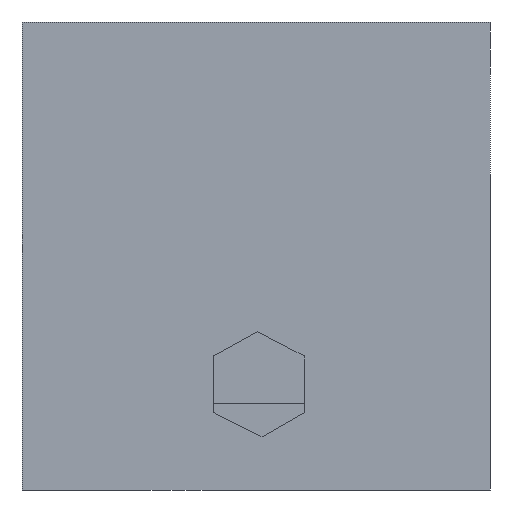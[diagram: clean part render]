
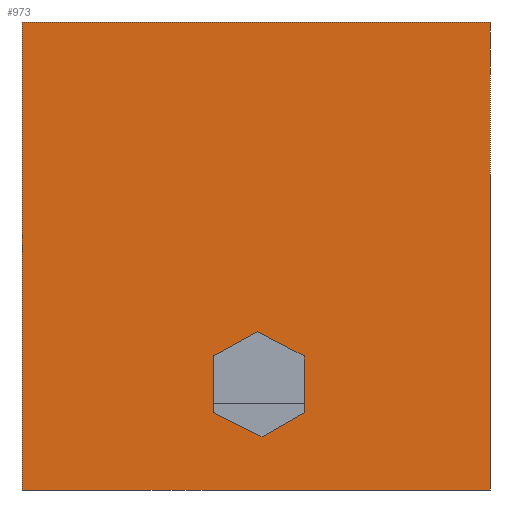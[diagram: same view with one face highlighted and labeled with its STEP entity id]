
A CAD part, front view. The second image highlights one B-rep face of the part: STEP entity #973.
In plain terms, the highlighted planar face has unit normal (0, -1, 0).
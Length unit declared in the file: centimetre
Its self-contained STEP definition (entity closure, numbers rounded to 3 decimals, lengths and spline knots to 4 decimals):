
#39 = EDGE_CURVE ( 'NONE', #222, #926, #1240, .T. ) ;
#52 = CARTESIAN_POINT ( 'NONE',  ( 0., 0., 1000. ) ) ;
#54 = ORIENTED_EDGE ( 'NONE', *, *, #39, .F. ) ;
#55 = VECTOR ( 'NONE', #280, 100. ) ;
#84 = CARTESIAN_POINT ( 'NONE',  ( 408.2537, 0., 286.3788 ) ) ;
#91 = EDGE_CURVE ( 'NONE', #437, #693, #1509, .T. ) ;
#97 = AXIS2_PLACEMENT_3D ( 'NONE', #123, #233, #823 ) ;
#107 = ORIENTED_EDGE ( 'NONE', *, *, #644, .F. ) ;
#123 = CARTESIAN_POINT ( 'NONE',  ( 0., 0., 1000. ) ) ;
#142 = ORIENTED_EDGE ( 'NONE', *, *, #91, .F. ) ;
#171 = CARTESIAN_POINT ( 'NONE',  ( 512.8261, 0., 113.7043 ) ) ;
#181 = LINE ( 'NONE', #412, #773 ) ;
#204 = CARTESIAN_POINT ( 'NONE',  ( 0., 0., 1000. ) ) ;
#218 = LINE ( 'NONE', #204, #303 ) ;
#222 = VERTEX_POINT ( 'NONE', #598 ) ;
#233 = DIRECTION ( 'NONE',  ( 0., 1., 0. ) ) ;
#248 = VECTOR ( 'NONE', #871, 100. ) ;
#271 = CARTESIAN_POINT ( 'NONE',  ( 0., 0., 0. ) ) ;
#280 = DIRECTION ( 'NONE',  ( 1., 0., 0. ) ) ;
#303 = VECTOR ( 'NONE', #436, 100. ) ;
#315 = LINE ( 'NONE', #84, #1192 ) ;
#324 = VECTOR ( 'NONE', #941, 100. ) ;
#327 = EDGE_CURVE ( 'NONE', #1081, #521, #218, .T. ) ;
#403 = LINE ( 'NONE', #52, #652 ) ;
#412 = CARTESIAN_POINT ( 'NONE',  ( 408.2537, 0., 165.629 ) ) ;
#420 = DIRECTION ( 'NONE',  ( 0.896, 0., -0.445 ) ) ;
#436 = DIRECTION ( 'NONE',  ( 0., 0., -1. ) ) ;
#437 = VERTEX_POINT ( 'NONE', #1060 ) ;
#460 = LINE ( 'NONE', #1281, #1002 ) ;
#494 = CARTESIAN_POINT ( 'NONE',  ( 0., 0., 1000. ) ) ;
#521 = VERTEX_POINT ( 'NONE', #849 ) ;
#534 = LINE ( 'NONE', #1468, #1489 ) ;
#542 = EDGE_LOOP ( 'NONE', ( #1248, #142, #1222, #1251, #789, #54 ) ) ;
#543 = DIRECTION ( 'NONE',  ( 0., 0., -1. ) ) ;
#555 = ORIENTED_EDGE ( 'NONE', *, *, #1382, .F. ) ;
#590 = CARTESIAN_POINT ( 'NONE',  ( 1000., 0., 1000. ) ) ;
#598 = CARTESIAN_POINT ( 'NONE',  ( 503.0686, 0., 338.3035 ) ) ;
#631 = LINE ( 'NONE', #1456, #248 ) ;
#643 = VERTEX_POINT ( 'NONE', #171 ) ;
#644 = EDGE_CURVE ( 'NONE', #909, #1379, #631, .T. ) ;
#652 = VECTOR ( 'NONE', #968, 100. ) ;
#657 = CARTESIAN_POINT ( 'NONE',  ( 602.7623, 0., 286.3788 ) ) ;
#678 = FACE_OUTER_BOUND ( 'NONE', #1257, .T. ) ;
#693 = VERTEX_POINT ( 'NONE', #657 ) ;
#713 = FACE_BOUND ( 'NONE', #542, .T. ) ;
#736 = EDGE_CURVE ( 'NONE', #926, #861, #315, .T. ) ;
#773 = VECTOR ( 'NONE', #420, 100. ) ;
#789 = ORIENTED_EDGE ( 'NONE', *, *, #736, .F. ) ;
#798 = EDGE_CURVE ( 'NONE', #643, #437, #534, .T. ) ;
#819 = EDGE_CURVE ( 'NONE', #861, #643, #181, .T. ) ;
#823 = DIRECTION ( 'NONE',  ( 0., 0., 1. ) ) ;
#849 = CARTESIAN_POINT ( 'NONE',  ( 0., 0., 0. ) ) ;
#861 = VERTEX_POINT ( 'NONE', #1490 ) ;
#871 = DIRECTION ( 'NONE',  ( 0., 0., -1. ) ) ;
#892 = CARTESIAN_POINT ( 'NONE',  ( 503.0686, 0., 338.3035 ) ) ;
#909 = VERTEX_POINT ( 'NONE', #590 ) ;
#926 = VERTEX_POINT ( 'NONE', #1173 ) ;
#941 = DIRECTION ( 'NONE',  ( 0., 0., 1. ) ) ;
#968 = DIRECTION ( 'NONE',  ( 1., 0., 0. ) ) ;
#973 = ADVANCED_FACE ( 'NONE', ( #713, #678 ), #1514, .F. ) ;
#1002 = VECTOR ( 'NONE', #1505, 100. ) ;
#1060 = CARTESIAN_POINT ( 'NONE',  ( 602.7623, 0., 165.629 ) ) ;
#1081 = VERTEX_POINT ( 'NONE', #494 ) ;
#1171 = EDGE_CURVE ( 'NONE', #521, #1379, #1316, .T. ) ;
#1173 = CARTESIAN_POINT ( 'NONE',  ( 408.2537, 0., 286.3788 ) ) ;
#1192 = VECTOR ( 'NONE', #543, 100. ) ;
#1222 = ORIENTED_EDGE ( 'NONE', *, *, #798, .F. ) ;
#1240 = LINE ( 'NONE', #892, #1426 ) ;
#1248 = ORIENTED_EDGE ( 'NONE', *, *, #1345, .F. ) ;
#1251 = ORIENTED_EDGE ( 'NONE', *, *, #819, .F. ) ;
#1257 = EDGE_LOOP ( 'NONE', ( #1510, #107, #555, #1487 ) ) ;
#1281 = CARTESIAN_POINT ( 'NONE',  ( 602.7623, 0., 286.3788 ) ) ;
#1316 = LINE ( 'NONE', #271, #55 ) ;
#1345 = EDGE_CURVE ( 'NONE', #693, #222, #460, .T. ) ;
#1361 = DIRECTION ( 'NONE',  ( -0.877, 0., -0.48 ) ) ;
#1379 = VERTEX_POINT ( 'NONE', #1407 ) ;
#1382 = EDGE_CURVE ( 'NONE', #1081, #909, #403, .T. ) ;
#1407 = CARTESIAN_POINT ( 'NONE',  ( 1000., 0., 0. ) ) ;
#1426 = VECTOR ( 'NONE', #1361, 100. ) ;
#1456 = CARTESIAN_POINT ( 'NONE',  ( 1000., 0., 1000. ) ) ;
#1468 = CARTESIAN_POINT ( 'NONE',  ( 512.8261, 0., 113.7043 ) ) ;
#1480 = DIRECTION ( 'NONE',  ( 0.866, 0., 0.5 ) ) ;
#1487 = ORIENTED_EDGE ( 'NONE', *, *, #327, .T. ) ;
#1489 = VECTOR ( 'NONE', #1480, 100. ) ;
#1490 = CARTESIAN_POINT ( 'NONE',  ( 408.2537, 0., 165.629 ) ) ;
#1501 = CARTESIAN_POINT ( 'NONE',  ( 602.7623, 0., 165.629 ) ) ;
#1505 = DIRECTION ( 'NONE',  ( -0.887, 0., 0.462 ) ) ;
#1509 = LINE ( 'NONE', #1501, #324 ) ;
#1510 = ORIENTED_EDGE ( 'NONE', *, *, #1171, .T. ) ;
#1514 = PLANE ( 'NONE',  #97 ) ;
